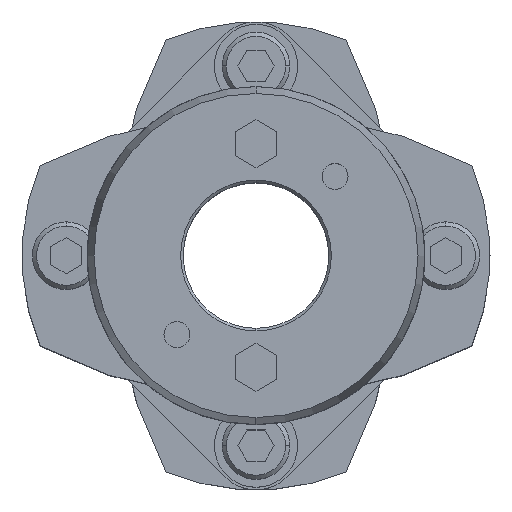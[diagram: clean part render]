
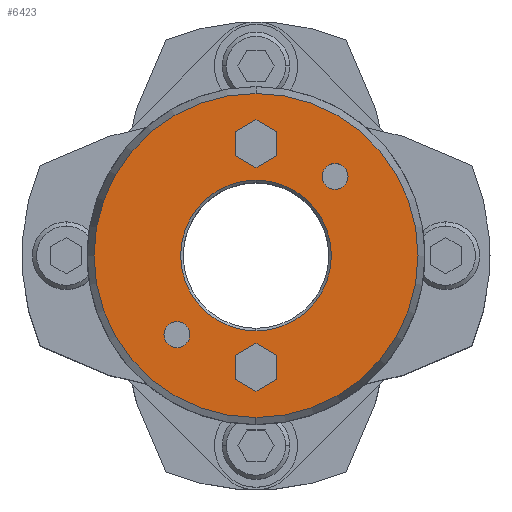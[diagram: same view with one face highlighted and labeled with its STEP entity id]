
A CAD part, top view. The second image highlights one B-rep face of the part: STEP entity #6423.
In plain terms, the highlighted planar face has unit normal (0, 0, 1).
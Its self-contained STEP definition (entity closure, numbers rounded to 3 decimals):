
#1677=CARTESIAN_POINT('',(0.,14.5,52.0));
#1678=VERTEX_POINT('',#1677);
#1694=CARTESIAN_POINT('',(0.,-14.5,52.0));
#1695=VERTEX_POINT('',#1694);
#1702=CARTESIAN_POINT('',(0.,0.,52.0));
#1703=DIRECTION('',(0.0,0.0,1.0));
#1704=DIRECTION('',(0.0,1.0,0.0));
#1705=AXIS2_PLACEMENT_3D('',#1702,#1703,#1704);
#1706=CIRCLE('',#1705,14.5);
#1707=EDGE_CURVE('',#1695,#1678,#1706,.T.);
#1823=CARTESIAN_POINT('',(0.,-31.16,52.0));
#1824=VERTEX_POINT('',#1823);
#1833=CARTESIAN_POINT('',(0.,31.16,52.0));
#1834=VERTEX_POINT('',#1833);
#1835=CARTESIAN_POINT('',(0.,0.,52.0));
#1836=DIRECTION('',(0.0,0.0,-1.0));
#1837=DIRECTION('',(0.0,-1.0,0.0));
#1838=AXIS2_PLACEMENT_3D('',#1835,#1836,#1837);
#1839=CIRCLE('',#1838,31.16);
#1840=EDGE_CURVE('',#1824,#1834,#1839,.T.);
#2157=CARTESIAN_POINT('',(15.203,17.703,52.0));
#2158=VERTEX_POINT('',#2157);
#2174=CARTESIAN_POINT('',(15.203,12.703,52.0));
#2175=VERTEX_POINT('',#2174);
#2182=CARTESIAN_POINT('',(15.203,15.203,52.0));
#2183=DIRECTION('',(0.0,0.0,-1.0));
#2184=DIRECTION('',(0.0,1.0,0.0));
#2185=AXIS2_PLACEMENT_3D('',#2182,#2183,#2184);
#2186=CIRCLE('',#2185,2.5);
#2187=EDGE_CURVE('',#2158,#2175,#2186,.T.);
#2199=CARTESIAN_POINT('',(-15.203,-12.703,52.0));
#2200=VERTEX_POINT('',#2199);
#2216=CARTESIAN_POINT('',(-15.203,-17.703,52.0));
#2217=VERTEX_POINT('',#2216);
#2224=CARTESIAN_POINT('',(-15.203,-15.203,52.0));
#2225=DIRECTION('',(0.0,0.0,-1.0));
#2226=DIRECTION('',(0.0,1.0,0.0));
#2227=AXIS2_PLACEMENT_3D('',#2224,#2225,#2226);
#2228=CIRCLE('',#2227,2.5);
#2229=EDGE_CURVE('',#2200,#2217,#2228,.T.);
#5029=CARTESIAN_POINT('',(0.,-16.881,52.0));
#5030=VERTEX_POINT('',#5029);
#5037=CARTESIAN_POINT('',(-4.,-19.191,52.0));
#5038=VERTEX_POINT('',#5037);
#5039=CARTESIAN_POINT('',(-4.,-19.191,52.0));
#5040=DIRECTION('',(0.866,0.5,0.0));
#5041=VECTOR('',#5040,4.619);
#5042=LINE('',#5039,#5041);
#5043=EDGE_CURVE('',#5038,#5030,#5042,.T.);
#5067=CARTESIAN_POINT('',(4.,-19.191,52.0));
#5068=VERTEX_POINT('',#5067);
#5075=CARTESIAN_POINT('',(0.,-16.881,52.0));
#5076=DIRECTION('',(0.866,-0.5,0.0));
#5077=VECTOR('',#5076,4.619);
#5078=LINE('',#5075,#5077);
#5079=EDGE_CURVE('',#5030,#5068,#5078,.T.);
#5098=CARTESIAN_POINT('',(4.,-23.809,52.0));
#5099=VERTEX_POINT('',#5098);
#5106=CARTESIAN_POINT('',(4.,-19.191,52.0));
#5107=DIRECTION('',(0.0,-1.0,0.0));
#5108=VECTOR('',#5107,4.619);
#5109=LINE('',#5106,#5108);
#5110=EDGE_CURVE('',#5068,#5099,#5109,.T.);
#5129=CARTESIAN_POINT('',(0.,-26.119,52.0));
#5130=VERTEX_POINT('',#5129);
#5137=CARTESIAN_POINT('',(4.,-23.809,52.0));
#5138=DIRECTION('',(-0.866,-0.5,0.0));
#5139=VECTOR('',#5138,4.619);
#5140=LINE('',#5137,#5139);
#5141=EDGE_CURVE('',#5099,#5130,#5140,.T.);
#5160=CARTESIAN_POINT('',(-4.,-23.809,52.0));
#5161=VERTEX_POINT('',#5160);
#5168=CARTESIAN_POINT('',(0.,-26.119,52.0));
#5169=DIRECTION('',(-0.866,0.5,0.0));
#5170=VECTOR('',#5169,4.619);
#5171=LINE('',#5168,#5170);
#5172=EDGE_CURVE('',#5130,#5161,#5171,.T.);
#5190=CARTESIAN_POINT('',(-4.,-23.809,52.0));
#5191=DIRECTION('',(0.0,1.0,0.0));
#5192=VECTOR('',#5191,4.619);
#5193=LINE('',#5190,#5192);
#5194=EDGE_CURVE('',#5161,#5038,#5193,.T.);
#5229=CARTESIAN_POINT('',(0.,26.119,52.0));
#5230=VERTEX_POINT('',#5229);
#5237=CARTESIAN_POINT('',(-4.,23.809,52.0));
#5238=VERTEX_POINT('',#5237);
#5239=CARTESIAN_POINT('',(-4.,23.809,52.0));
#5240=DIRECTION('',(0.866,0.5,0.0));
#5241=VECTOR('',#5240,4.619);
#5242=LINE('',#5239,#5241);
#5243=EDGE_CURVE('',#5238,#5230,#5242,.T.);
#5267=CARTESIAN_POINT('',(4.,23.809,52.0));
#5268=VERTEX_POINT('',#5267);
#5275=CARTESIAN_POINT('',(0.,26.119,52.0));
#5276=DIRECTION('',(0.866,-0.5,0.0));
#5277=VECTOR('',#5276,4.619);
#5278=LINE('',#5275,#5277);
#5279=EDGE_CURVE('',#5230,#5268,#5278,.T.);
#5298=CARTESIAN_POINT('',(4.,19.191,52.0));
#5299=VERTEX_POINT('',#5298);
#5306=CARTESIAN_POINT('',(4.,23.809,52.0));
#5307=DIRECTION('',(0.0,-1.0,0.0));
#5308=VECTOR('',#5307,4.619);
#5309=LINE('',#5306,#5308);
#5310=EDGE_CURVE('',#5268,#5299,#5309,.T.);
#5329=CARTESIAN_POINT('',(0.,16.881,52.0));
#5330=VERTEX_POINT('',#5329);
#5337=CARTESIAN_POINT('',(4.,19.191,52.0));
#5338=DIRECTION('',(-0.866,-0.5,0.0));
#5339=VECTOR('',#5338,4.619);
#5340=LINE('',#5337,#5339);
#5341=EDGE_CURVE('',#5299,#5330,#5340,.T.);
#5360=CARTESIAN_POINT('',(-4.,19.191,52.0));
#5361=VERTEX_POINT('',#5360);
#5368=CARTESIAN_POINT('',(0.,16.881,52.0));
#5369=DIRECTION('',(-0.866,0.5,0.0));
#5370=VECTOR('',#5369,4.619);
#5371=LINE('',#5368,#5370);
#5372=EDGE_CURVE('',#5330,#5361,#5371,.T.);
#5390=CARTESIAN_POINT('',(-4.,19.191,52.0));
#5391=DIRECTION('',(0.0,1.0,0.0));
#5392=VECTOR('',#5391,4.619);
#5393=LINE('',#5390,#5392);
#5394=EDGE_CURVE('',#5361,#5238,#5393,.T.);
#5420=CARTESIAN_POINT('',(-15.203,-15.203,52.0));
#5421=DIRECTION('',(0.0,0.0,-1.0));
#5422=DIRECTION('',(0.0,1.0,0.0));
#5423=AXIS2_PLACEMENT_3D('',#5420,#5421,#5422);
#5424=CIRCLE('',#5423,2.5);
#5425=EDGE_CURVE('',#2217,#2200,#5424,.T.);
#5454=CARTESIAN_POINT('',(15.203,15.203,52.0));
#5455=DIRECTION('',(0.0,0.0,-1.0));
#5456=DIRECTION('',(0.0,1.0,0.0));
#5457=AXIS2_PLACEMENT_3D('',#5454,#5455,#5456);
#5458=CIRCLE('',#5457,2.5);
#5459=EDGE_CURVE('',#2175,#2158,#5458,.T.);
#6370=CARTESIAN_POINT('',(0.,0.,52.0));
#6371=DIRECTION('',(0.0,0.0,-1.0));
#6372=DIRECTION('',(0.0,-1.0,0.0));
#6373=AXIS2_PLACEMENT_3D('',#6370,#6371,#6372);
#6374=CIRCLE('',#6373,31.16);
#6375=EDGE_CURVE('',#1834,#1824,#6374,.T.);
#6380=CARTESIAN_POINT('',(0.,2.682,52.0));
#6381=DIRECTION('',(0.0,0.0,1.0));
#6382=DIRECTION('',(0.0,1.0,0.0));
#6383=AXIS2_PLACEMENT_3D('',#6380,#6381,#6382);
#6384=PLANE('',#6383);
#6385=ORIENTED_EDGE('',*,*,#6375,.F.);
#6386=ORIENTED_EDGE('',*,*,#1840,.F.);
#6387=EDGE_LOOP('',(#6385,#6386));
#6388=FACE_OUTER_BOUND('',#6387,.T.);
#6389=ORIENTED_EDGE('',*,*,#5043,.T.);
#6390=ORIENTED_EDGE('',*,*,#5079,.T.);
#6391=ORIENTED_EDGE('',*,*,#5110,.T.);
#6392=ORIENTED_EDGE('',*,*,#5141,.T.);
#6393=ORIENTED_EDGE('',*,*,#5172,.T.);
#6394=ORIENTED_EDGE('',*,*,#5194,.T.);
#6395=EDGE_LOOP('',(#6389,#6390,#6391,#6392,#6393,#6394));
#6396=FACE_BOUND('',#6395,.T.);
#6397=ORIENTED_EDGE('',*,*,#5243,.T.);
#6398=ORIENTED_EDGE('',*,*,#5279,.T.);
#6399=ORIENTED_EDGE('',*,*,#5310,.T.);
#6400=ORIENTED_EDGE('',*,*,#5341,.T.);
#6401=ORIENTED_EDGE('',*,*,#5372,.T.);
#6402=ORIENTED_EDGE('',*,*,#5394,.T.);
#6403=EDGE_LOOP('',(#6397,#6398,#6399,#6400,#6401,#6402));
#6404=FACE_BOUND('',#6403,.T.);
#6405=ORIENTED_EDGE('',*,*,#2229,.T.);
#6406=ORIENTED_EDGE('',*,*,#5425,.T.);
#6407=EDGE_LOOP('',(#6405,#6406));
#6408=FACE_BOUND('',#6407,.T.);
#6409=ORIENTED_EDGE('',*,*,#2187,.T.);
#6410=ORIENTED_EDGE('',*,*,#5459,.T.);
#6411=EDGE_LOOP('',(#6409,#6410));
#6412=FACE_BOUND('',#6411,.T.);
#6413=ORIENTED_EDGE('',*,*,#1707,.F.);
#6414=CARTESIAN_POINT('',(0.,0.,52.0));
#6415=DIRECTION('',(0.0,0.0,1.0));
#6416=DIRECTION('',(0.0,1.0,0.0));
#6417=AXIS2_PLACEMENT_3D('',#6414,#6415,#6416);
#6418=CIRCLE('',#6417,14.5);
#6419=EDGE_CURVE('',#1678,#1695,#6418,.T.);
#6420=ORIENTED_EDGE('',*,*,#6419,.F.);
#6421=EDGE_LOOP('',(#6413,#6420));
#6422=FACE_BOUND('',#6421,.T.);
#6423=ADVANCED_FACE('',(#6388,#6396,#6404,#6408,#6412,#6422),#6384,.T.);
